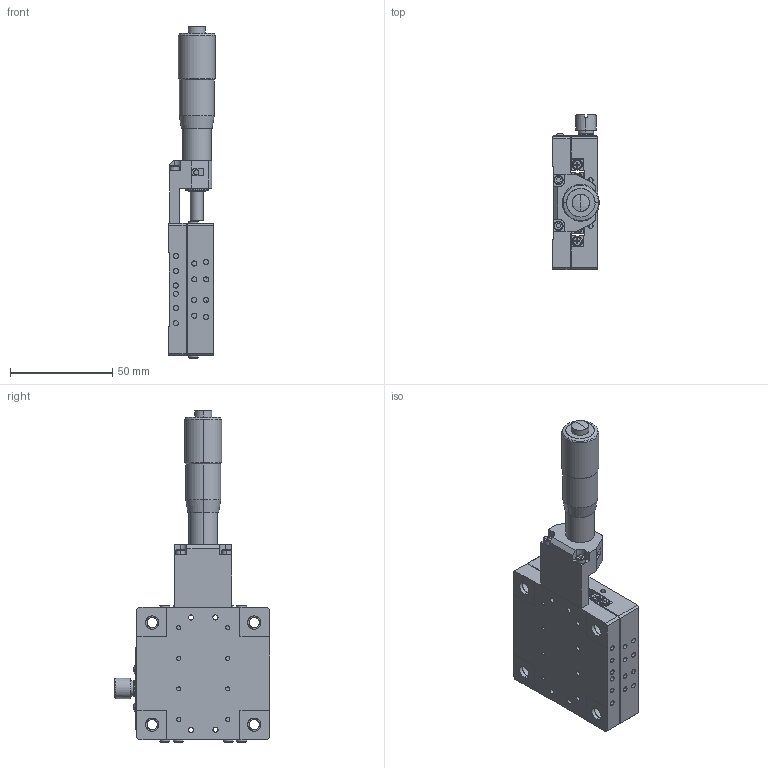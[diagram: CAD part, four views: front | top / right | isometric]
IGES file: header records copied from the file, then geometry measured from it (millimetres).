
Start section: SolidWorks IGES file using analytic representation for surfaces
Global section: file name: E:\0产品2d3d图纸-20180629\0-3种格式文件\产品图纸3d\07PHL\65\PHL-651CR-M6.IGS; native system: SolidWorks 2015; preprocessor: SolidWorks 2015; author: Administrator; date: 180724.092141; units: millimetre
Bounding box: 22.8 x 76 x 162.64 mm (x, y, z)
Surface area: 57470.9 mm2 (no closed solid volume)
Topology: 0 solids, 0 shells, 1193 faces, 21375 edges, 21356 vertices
Faces by surface type: bspline 615, revolution 578
